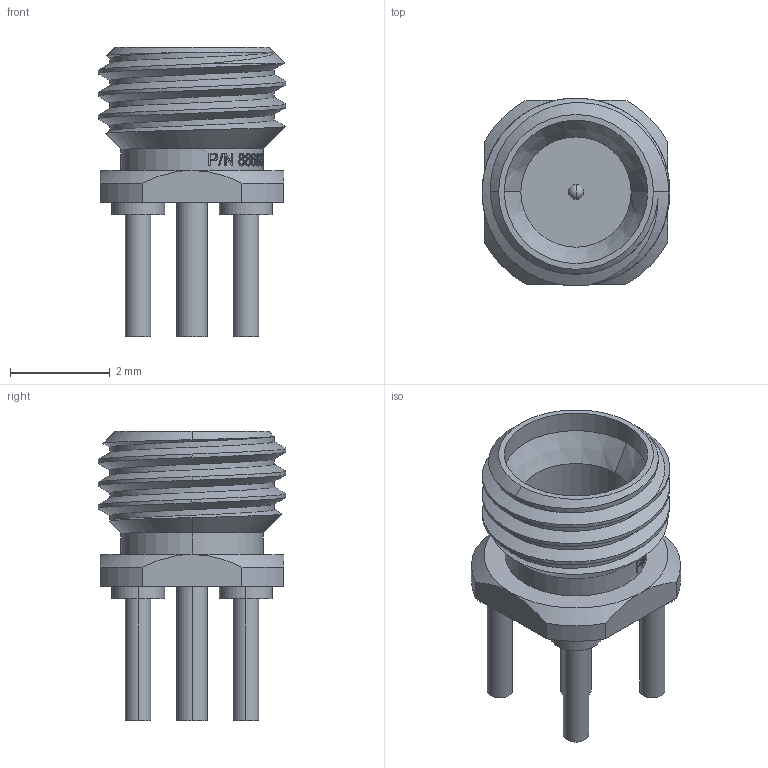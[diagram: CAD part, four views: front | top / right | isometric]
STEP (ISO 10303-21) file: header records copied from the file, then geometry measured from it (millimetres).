
FILE_DESCRIPTION (( 'STEP AP203' ), '1' );
FILE_NAME ('8868000G91N-003.STEP', '2023-10-23T14:20:20', ( '' ), ( '' ), 'SwSTEP 2.0', 'SolidWorks 2022', '' );
FILE_SCHEMA (( 'CONFIG_CONTROL_DESIGN' ));
Length unit declared in the file: inch
Products named in the file (1): 8868000G91N-003
Bounding box: 3.76 x 3.76 x 5.79 mm (x, y, z)
Volume: 23 mm3; surface area: 110 mm2
Topology: 1 solids, 1 shells, 311 faces, 791 edges, 523 vertices
Faces by surface type: bspline 172, cylinder 69, plane 58, cone 10, sphere 2
Entity records: 13050 total; most frequent: CARTESIAN_POINT 6969, ORIENTED_EDGE 1578, EDGE_CURVE 789, DIRECTION 627, B_SPLINE_CURVE_WITH_KNOTS 548, VERTEX_POINT 523, EDGE_LOOP 354, FACE_OUTER_BOUND 311
